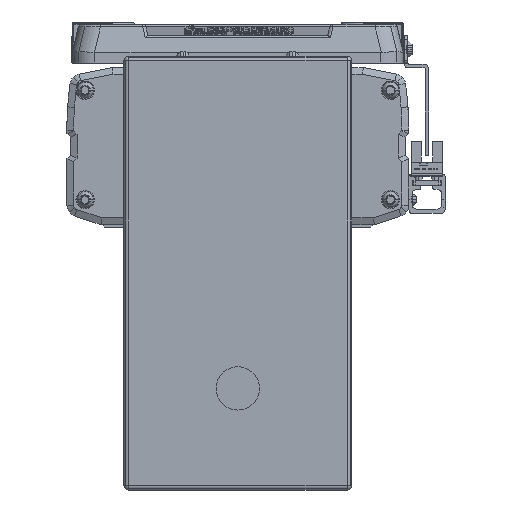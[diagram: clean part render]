
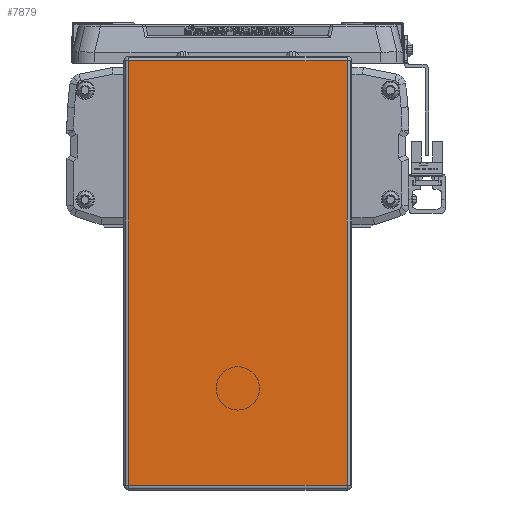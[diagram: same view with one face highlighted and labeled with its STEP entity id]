
A CAD part, left-side view. The second image highlights one B-rep face of the part: STEP entity #7879.
In plain terms, the highlighted planar face has unit normal (-1, 0, 0).
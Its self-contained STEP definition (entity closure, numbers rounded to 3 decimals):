
#7879=ADVANCED_FACE('',(#16403),#16404,.T.);
#16403=FACE_OUTER_BOUND('',#26702,.T.);
#16404=PLANE('',#26703);
#26702=EDGE_LOOP('',(#48965,#48966,#48967,#48968));
#26703=AXIS2_PLACEMENT_3D('',#48969,#48970,#48971);
#48965=ORIENTED_EDGE('',*,*,#63225,.F.);
#48966=ORIENTED_EDGE('',*,*,#62832,.F.);
#48967=ORIENTED_EDGE('',*,*,#64468,.F.);
#48968=ORIENTED_EDGE('',*,*,#63603,.F.);
#48969=CARTESIAN_POINT('',(-45.,0.,-64.2));
#48970=DIRECTION('',(-1.0,0.,0.));
#48971=DIRECTION('',(0.,1.0,0.));
#62832=EDGE_CURVE('',#77333,#69691,#77335,.T.);
#63225=EDGE_CURVE('',#69691,#73181,#77828,.T.);
#63603=EDGE_CURVE('',#73181,#77130,#78285,.T.);
#64468=EDGE_CURVE('',#77130,#77333,#79315,.T.);
#69691=VERTEX_POINT('',#87146);
#73181=VERTEX_POINT('',#91966);
#77130=VERTEX_POINT('',#98013);
#77333=VERTEX_POINT('',#98278);
#77335=LINE('',#98280,#98281);
#77828=LINE('',#98970,#98971);
#78285=LINE('',#99559,#99560);
#79315=LINE('',#100911,#100912);
#87146=CARTESIAN_POINT('',(-45.,48.,29.));
#91966=CARTESIAN_POINT('',(-45.,-48.,29.));
#98013=CARTESIAN_POINT('',(-45.,-48.,-157.4));
#98278=CARTESIAN_POINT('',(-45.,48.,-157.4));
#98280=CARTESIAN_POINT('',(-45.,48.,-64.2));
#98281=VECTOR('',#112432,10.0);
#98970=CARTESIAN_POINT('',(-45.,0.,29.));
#98971=VECTOR('',#112871,10.0);
#99559=CARTESIAN_POINT('',(-45.,-48.,-64.2));
#99560=VECTOR('',#113318,10.0);
#100911=CARTESIAN_POINT('',(-45.,0.,-157.4));
#100912=VECTOR('',#114280,10.0);
#112432=DIRECTION('',(0.,0.,1.0));
#112871=DIRECTION('',(0.,-1.0,0.));
#113318=DIRECTION('',(0.,0.,-1.0));
#114280=DIRECTION('',(0.,1.0,0.));
